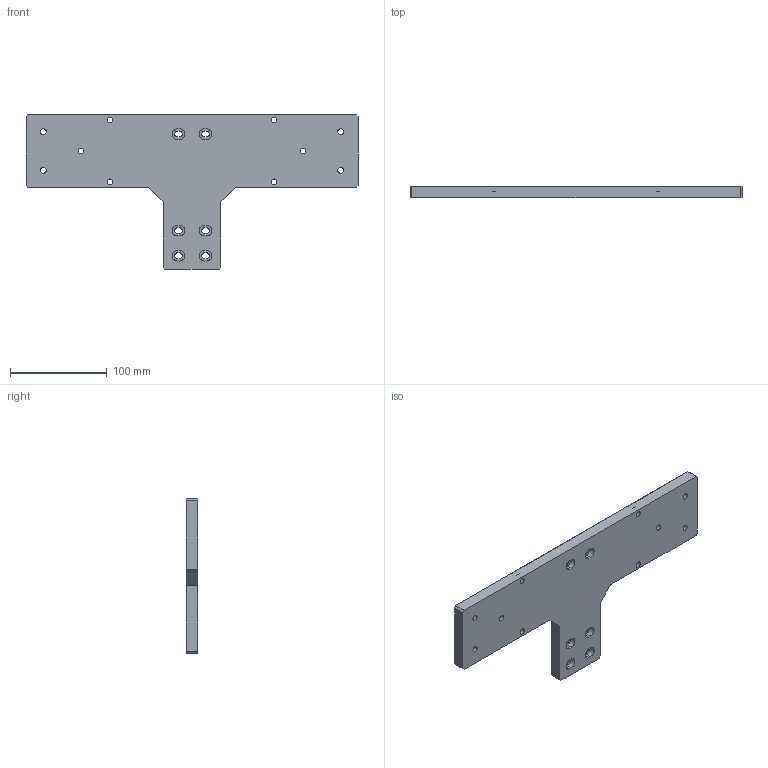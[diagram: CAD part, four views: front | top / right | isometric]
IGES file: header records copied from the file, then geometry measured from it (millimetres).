
Start section:  PTC IGES file: n60-n80m-st.igs
Global section: file name: n60-n80m-st.igs; native system: Pro/ENGINEER by Parametric Technology Corporation; preprocessor: 2008230; author: Owner; organization: Unknown; date: 20121211.163818; units: millimetre
Bounding box: 344 x 12 x 160 mm (x, y, z)
Surface area: 78393 mm2 (no closed solid volume)
Topology: 0 solids, 0 shells, 122 faces, 640 edges, 638 vertices
Faces by surface type: revolution 64, bspline 58
